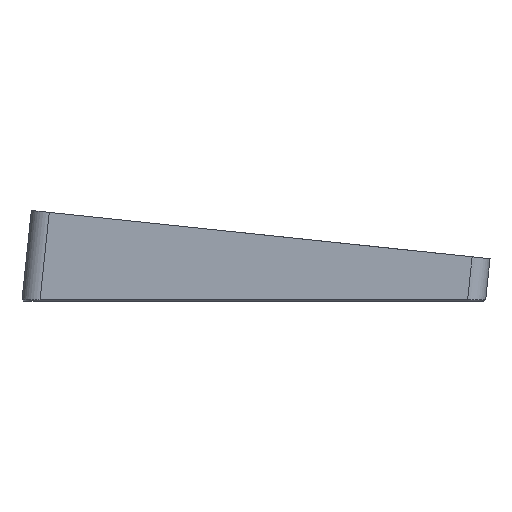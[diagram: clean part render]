
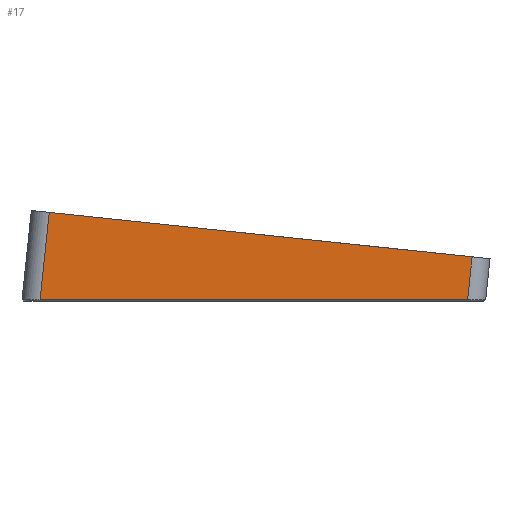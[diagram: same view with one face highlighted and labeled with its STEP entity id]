
A CAD part, left-side view. The second image highlights one B-rep face of the part: STEP entity #17.
In plain terms, the highlighted planar face has unit normal (-1, 0, 0).
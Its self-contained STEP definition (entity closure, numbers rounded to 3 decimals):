
#17 = ADVANCED_FACE('',(#18),#32,.F.);
#18 = FACE_BOUND('',#19,.F.);
#19 = EDGE_LOOP('',(#20,#55,#83,#111));
#20 = ORIENTED_EDGE('',*,*,#21,.T.);
#21 = EDGE_CURVE('',#22,#24,#26,.T.);
#22 = VERTEX_POINT('',#23);
#23 = CARTESIAN_POINT('',(0.,148.576,0.6));
#24 = VERTEX_POINT('',#25);
#25 = CARTESIAN_POINT('',(0.,145.515,29.723));
#26 = SURFACE_CURVE('',#27,(#31,#43),.PCURVE_S1.);
#27 = LINE('',#28,#29);
#28 = CARTESIAN_POINT('',(0.,154.322,-54.065));
#29 = VECTOR('',#30,1.);
#30 = DIRECTION('',(0.,-0.105,0.995));
#31 = PCURVE('',#32,#37);
#32 = PLANE('',#33);
#33 = AXIS2_PLACEMENT_3D('',#34,#35,#36);
#34 = CARTESIAN_POINT('',(0.,7.307,-69.517));
#35 = DIRECTION('',(1.,0.,0.));
#36 = DIRECTION('',(0.,-0.105,0.995));
#37 = DEFINITIONAL_REPRESENTATION('',(#38),#42);
#38 = LINE('',#39,#40);
#39 = CARTESIAN_POINT('',(0.,-147.825));
#40 = VECTOR('',#41,1.);
#41 = DIRECTION('',(1.,0.));
#42 = ( GEOMETRIC_REPRESENTATION_CONTEXT(2) 
PARAMETRIC_REPRESENTATION_CONTEXT() REPRESENTATION_CONTEXT('2D SPACE',''
  ) );
#43 = PCURVE('',#44,#49);
#44 = CYLINDRICAL_SURFACE('',#45,6.);
#45 = AXIS2_PLACEMENT_3D('',#46,#47,#48);
#46 = CARTESIAN_POINT('',(6.,154.322,-54.065));
#47 = DIRECTION('',(0.,-0.105,0.995));
#48 = DIRECTION('',(-1.,-0.,0.));
#49 = DEFINITIONAL_REPRESENTATION('',(#50),#54);
#50 = LINE('',#51,#52);
#51 = CARTESIAN_POINT('',(-0.,0.));
#52 = VECTOR('',#53,1.);
#53 = DIRECTION('',(-0.,1.));
#54 = ( GEOMETRIC_REPRESENTATION_CONTEXT(2) 
PARAMETRIC_REPRESENTATION_CONTEXT() REPRESENTATION_CONTEXT('2D SPACE',''
  ) );
#55 = ORIENTED_EDGE('',*,*,#56,.F.);
#56 = EDGE_CURVE('',#57,#24,#59,.T.);
#57 = VERTEX_POINT('',#58);
#58 = CARTESIAN_POINT('',(0.,4.467,14.899));
#59 = SURFACE_CURVE('',#60,(#64,#71),.PCURVE_S1.);
#60 = LINE('',#61,#62);
#61 = CARTESIAN_POINT('',(0.,-1.5,14.271));
#62 = VECTOR('',#63,1.);
#63 = DIRECTION('',(0.,0.995,0.105));
#64 = PCURVE('',#32,#65);
#65 = DEFINITIONAL_REPRESENTATION('',(#66),#70);
#66 = LINE('',#67,#68);
#67 = CARTESIAN_POINT('',(84.25,0.));
#68 = VECTOR('',#69,1.);
#69 = DIRECTION('',(0.,-1.));
#70 = ( GEOMETRIC_REPRESENTATION_CONTEXT(2) 
PARAMETRIC_REPRESENTATION_CONTEXT() REPRESENTATION_CONTEXT('2D SPACE',''
  ) );
#71 = PCURVE('',#72,#77);
#72 = PLANE('',#73);
#73 = AXIS2_PLACEMENT_3D('',#74,#75,#76);
#74 = CARTESIAN_POINT('',(0.,-1.5,14.271));
#75 = DIRECTION('',(0.,-0.105,0.995));
#76 = DIRECTION('',(1.,0.,0.));
#77 = DEFINITIONAL_REPRESENTATION('',(#78),#82);
#78 = LINE('',#79,#80);
#79 = CARTESIAN_POINT('',(0.,0.));
#80 = VECTOR('',#81,1.);
#81 = DIRECTION('',(0.,1.));
#82 = ( GEOMETRIC_REPRESENTATION_CONTEXT(2) 
PARAMETRIC_REPRESENTATION_CONTEXT() REPRESENTATION_CONTEXT('2D SPACE',''
  ) );
#83 = ORIENTED_EDGE('',*,*,#84,.F.);
#84 = EDGE_CURVE('',#85,#57,#87,.T.);
#85 = VERTEX_POINT('',#86);
#86 = CARTESIAN_POINT('',(0.,5.97,0.6));
#87 = SURFACE_CURVE('',#88,(#92,#99),.PCURVE_S1.);
#88 = LINE('',#89,#90);
#89 = CARTESIAN_POINT('',(0.,13.274,-68.89));
#90 = VECTOR('',#91,1.);
#91 = DIRECTION('',(0.,-0.105,0.995));
#92 = PCURVE('',#32,#93);
#93 = DEFINITIONAL_REPRESENTATION('',(#94),#98);
#94 = LINE('',#95,#96);
#95 = CARTESIAN_POINT('',(0.,-6.));
#96 = VECTOR('',#97,1.);
#97 = DIRECTION('',(1.,0.));
#98 = ( GEOMETRIC_REPRESENTATION_CONTEXT(2) 
PARAMETRIC_REPRESENTATION_CONTEXT() REPRESENTATION_CONTEXT('2D SPACE',''
  ) );
#99 = PCURVE('',#100,#105);
#100 = CYLINDRICAL_SURFACE('',#101,6.);
#101 = AXIS2_PLACEMENT_3D('',#102,#103,#104);
#102 = CARTESIAN_POINT('',(6.,13.274,-68.89));
#103 = DIRECTION('',(0.,-0.105,0.995));
#104 = DIRECTION('',(-1.,-0.,0.));
#105 = DEFINITIONAL_REPRESENTATION('',(#106),#110);
#106 = LINE('',#107,#108);
#107 = CARTESIAN_POINT('',(0.,0.));
#108 = VECTOR('',#109,1.);
#109 = DIRECTION('',(0.,1.));
#110 = ( GEOMETRIC_REPRESENTATION_CONTEXT(2) 
PARAMETRIC_REPRESENTATION_CONTEXT() REPRESENTATION_CONTEXT('2D SPACE',''
  ) );
#111 = ORIENTED_EDGE('',*,*,#112,.F.);
#112 = EDGE_CURVE('',#22,#85,#113,.T.);
#113 = SURFACE_CURVE('',#114,(#118,#125),.PCURVE_S1.);
#114 = LINE('',#115,#116);
#115 = CARTESIAN_POINT('',(0.,148.639,0.6));
#116 = VECTOR('',#117,1.);
#117 = DIRECTION('',(0.,-1.,0.));
#118 = PCURVE('',#32,#119);
#119 = DEFINITIONAL_REPRESENTATION('',(#120),#124);
#120 = LINE('',#121,#122);
#121 = CARTESIAN_POINT('',(54.96,-147.888));
#122 = VECTOR('',#123,1.);
#123 = DIRECTION('',(0.105,0.995));
#124 = ( GEOMETRIC_REPRESENTATION_CONTEXT(2) 
PARAMETRIC_REPRESENTATION_CONTEXT() REPRESENTATION_CONTEXT('2D SPACE',''
  ) );
#125 = PCURVE('',#126,#131);
#126 = PLANE('',#127);
#127 = AXIS2_PLACEMENT_3D('',#128,#129,#130);
#128 = CARTESIAN_POINT('',(0.3,148.639,0.3));
#129 = DIRECTION('',(-0.707,0.,-0.707));
#130 = DIRECTION('',(-0.,1.,0.));
#131 = DEFINITIONAL_REPRESENTATION('',(#132),#136);
#132 = LINE('',#133,#134);
#133 = CARTESIAN_POINT('',(-0.,-0.424));
#134 = VECTOR('',#135,1.);
#135 = DIRECTION('',(-1.,0.));
#136 = ( GEOMETRIC_REPRESENTATION_CONTEXT(2) 
PARAMETRIC_REPRESENTATION_CONTEXT() REPRESENTATION_CONTEXT('2D SPACE',''
  ) );
